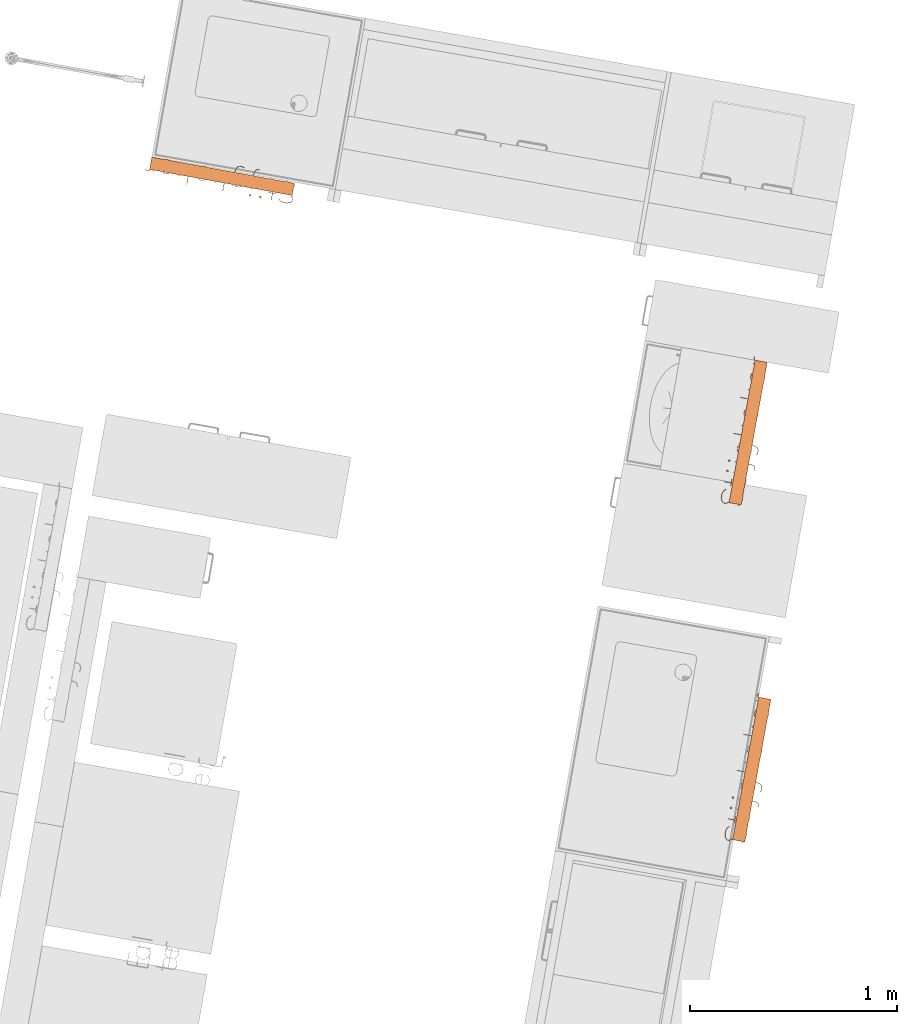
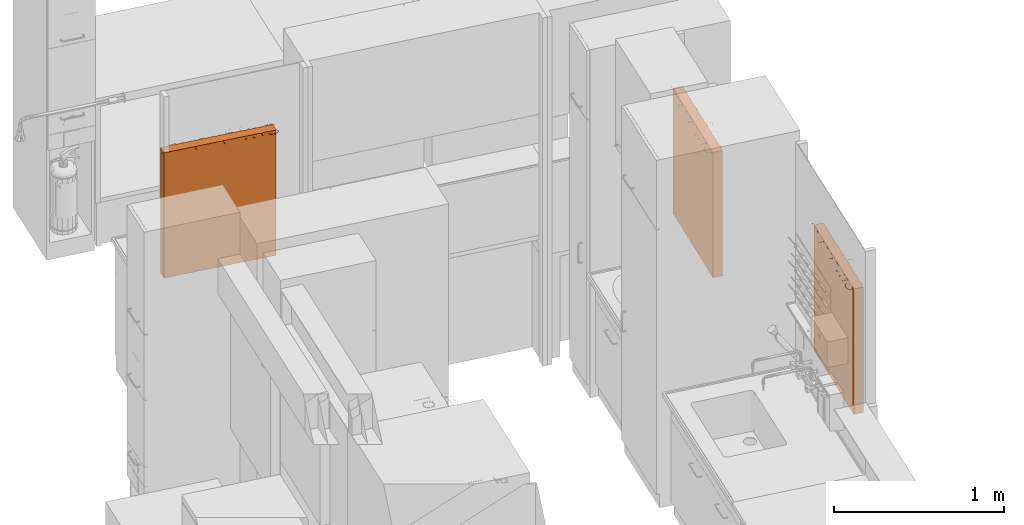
# One storey, part 33 of 43: 3 proxies.
"""IFC2X3 building model written with IfcOpenShell, lengths in metres."""

from ifc_helpers import new_model, entity, si_unit, converted_unit, derived_unit, direction, frame, origin, place, context, subcontext, project, spatial, face_set, surface_model, source, transform, mapped, material, type_object, type_shapes, element, save


model = new_model("IFC2X3")

# Units and contexts
model_context = context("Model", 3, precision=1e-05, world=origin(), true_north=direction((6.12303176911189e-17, 1.0)))
body_context = subcontext(model_context, "Body", "Model", "MODEL_VIEW")
ifc_project = project(units=[si_unit("LENGTHUNIT", "METRE"), si_unit("AREAUNIT", "SQUARE_METRE"), si_unit("VOLUMEUNIT", "CUBIC_METRE"), converted_unit("PLANEANGLEUNIT", "DEGREE", entity("IfcRatioMeasure", 0.0174532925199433), si_unit("PLANEANGLEUNIT", "RADIAN"), dimensions=[0, 0, 0, 0, 0, 0, 0]), si_unit("MASSUNIT", "GRAM", prefix="KILO"), derived_unit("MASSDENSITYUNIT", [(si_unit("MASSUNIT", "GRAM", prefix="KILO"), 1), (si_unit("LENGTHUNIT", "METRE"), -3)]), derived_unit("MOMENTOFINERTIAUNIT", [(si_unit("LENGTHUNIT", "METRE"), 4)]), si_unit("TIMEUNIT", "SECOND"), si_unit("FREQUENCYUNIT", "HERTZ"), si_unit("THERMODYNAMICTEMPERATUREUNIT", "DEGREE_CELSIUS"), derived_unit("THERMALTRANSMITTANCEUNIT", [(si_unit("MASSUNIT", "GRAM", prefix="KILO"), 1), (si_unit("THERMODYNAMICTEMPERATUREUNIT", "KELVIN"), -1), (si_unit("TIMEUNIT", "SECOND"), -3)]), derived_unit("VOLUMETRICFLOWRATEUNIT", [(si_unit("LENGTHUNIT", "METRE"), 3), (si_unit("TIMEUNIT", "SECOND"), -1)]), si_unit("ELECTRICCURRENTUNIT", "AMPERE"), si_unit("ELECTRICVOLTAGEUNIT", "VOLT"), si_unit("POWERUNIT", "WATT"), si_unit("FORCEUNIT", "NEWTON", prefix="KILO"), si_unit("ILLUMINANCEUNIT", "LUX"), si_unit("LUMINOUSFLUXUNIT", "LUMEN"), si_unit("LUMINOUSINTENSITYUNIT", "CANDELA"), derived_unit("USERDEFINED", [(si_unit("MASSUNIT", "GRAM", prefix="KILO"), -1), (si_unit("LENGTHUNIT", "METRE"), -2), (si_unit("TIMEUNIT", "SECOND"), 3), (si_unit("LUMINOUSFLUXUNIT", "LUMEN"), 1)]), derived_unit("LINEARVELOCITYUNIT", [(si_unit("LENGTHUNIT", "METRE"), 1), (si_unit("TIMEUNIT", "SECOND"), -1)]), si_unit("PRESSUREUNIT", "PASCAL"), derived_unit("USERDEFINED", [(si_unit("LENGTHUNIT", "METRE"), -2), (si_unit("MASSUNIT", "GRAM", prefix="KILO"), 1), (si_unit("TIMEUNIT", "SECOND"), -2)]), derived_unit("LINEARFORCEUNIT", [(si_unit("MASSUNIT", "GRAM", prefix="KILO"), 1), (si_unit("LENGTHUNIT", "METRE"), 1), (si_unit("TIMEUNIT", "SECOND"), -2), (si_unit("LENGTHUNIT", "METRE"), -1)]), derived_unit("PLANARFORCEUNIT", [(si_unit("MASSUNIT", "GRAM", prefix="KILO"), 1), (si_unit("LENGTHUNIT", "METRE"), 1), (si_unit("TIMEUNIT", "SECOND"), -2), (si_unit("LENGTHUNIT", "METRE"), -2)])], contexts=[model_context])

# Site, building, storey
site_placement = place(None, origin())
site = spatial("IfcSite", under=ifc_project, at=site_placement, Name="Default", CompositionType="ELEMENT")
building_placement = place(site_placement, origin())
building = spatial("IfcBuilding", under=site, at=building_placement, CompositionType="ELEMENT")
storey_placement = place(building_placement, frame((0.0, 0.0, 3.0)))
storey = spatial("IfcBuildingStorey", under=building, at=storey_placement, Name="01 OG", CompositionType="ELEMENT", Elevation=3.0)

# Proxies
ifc_material = material(Name="dh_Stellfläche")
building_element_proxy_type = type_object("IfcBuildingElementProxyType", Name="dh_Gerät_Stellfläche Bestand:Nutzergerät", PredefinedType="NOTDEFINED", material=ifc_material)
shared_shape = source(origin(), body_context, "Body", "SurfaceModel", [
    surface_model("IfcFaceBasedSurfaceModel", [(-0.355113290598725, -0.0453817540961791, 0.905000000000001), (-0.356700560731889, -0.0470458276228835, 0.905000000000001), (-0.346946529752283, -0.0567998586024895, 0.905000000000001), (-0.332277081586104, -0.0616384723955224, 0.905000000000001), (-0.312948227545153, -0.0616384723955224, 0.905000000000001), (-0.298278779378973, -0.0567998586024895, 0.905000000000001), (-0.288166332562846, -0.0466618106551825, 0.905000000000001), (-0.288166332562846, -0.0314547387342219, 0.905000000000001), (-0.29308174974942, -0.0214446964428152, 0.905000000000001), (-0.298073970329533, -0.0163500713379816, 0.905000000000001), (-0.307904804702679, -0.0115114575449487, 0.905000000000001), (-0.336450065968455, -0.00188543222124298, 0.905000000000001), (-0.34569207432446, 0.00295318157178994, 0.905000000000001), (-0.350197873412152, 0.00745898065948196, 0.905000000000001), (-0.354857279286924, 0.0166497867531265, 0.905000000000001), (-0.354857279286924, 0.0255845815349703, 0.905000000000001), (-0.34582007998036, 0.0347241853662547, 0.905000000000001), (-0.331944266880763, 0.0393579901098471, 0.905000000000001), (-0.313204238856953, 0.0393579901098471, 0.905000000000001), (-0.299328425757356, 0.0347241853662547, 0.905000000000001), (-0.290112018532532, 0.0252005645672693, 0.905000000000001), (-0.288447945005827, 0.0268646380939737, 0.905000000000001), (-0.298278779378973, 0.0366186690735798, 0.905000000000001), (-0.312948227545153, 0.041585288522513, 0.905000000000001), (-0.332277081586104, 0.041585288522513, 0.905000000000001), (-0.346946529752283, 0.0366186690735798, 0.905000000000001), (-0.35698217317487, 0.0264550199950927, 0.905000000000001), (-0.35698217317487, 0.016112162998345, 0.905000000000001), (-0.352117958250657, 0.00610212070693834, 0.905000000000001), (-0.347074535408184, 0.00100749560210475, 0.905000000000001), (-0.337243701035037, -0.00383111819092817, 0.905000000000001), (-0.308698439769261, -0.0134571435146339, 0.905000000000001), (-0.299456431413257, -0.0182957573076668, 0.905000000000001), (-0.294950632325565, -0.0228015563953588, 0.905000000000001), (-0.290368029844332, -0.0320691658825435, 0.905000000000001), (-0.290368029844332, -0.0457657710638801, 0.905000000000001), (-0.299328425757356, -0.0549053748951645, 0.905000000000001), (-0.313204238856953, -0.0595647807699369, 0.905000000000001), (-0.331944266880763, -0.0595647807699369, 0.905000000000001), (-0.34582007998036, -0.0549053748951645, 0.905000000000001), (-0.230691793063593, -0.0616384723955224, 0.905000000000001), (-0.230691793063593, -0.0595647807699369, 0.905000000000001), (-0.239908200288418, -0.0595647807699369, 0.905000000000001), (-0.248740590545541, -0.055084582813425, 0.905000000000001), (-0.253399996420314, -0.0413879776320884, 0.905000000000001), (-0.253399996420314, 0.00533408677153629, 0.905000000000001), (-0.235402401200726, 0.00533408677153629, 0.905000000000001), (-0.235402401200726, 0.00745898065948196, 0.905000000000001), (-0.253399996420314, 0.00745898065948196, 0.905000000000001), (-0.253399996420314, 0.0399468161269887, 0.905000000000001), (-0.255576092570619, 0.0399468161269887, 0.905000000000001), (-0.255576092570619, 0.00745898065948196, 0.905000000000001), (-0.268735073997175, 0.00745898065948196, 0.905000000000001), (-0.268735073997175, 0.00533408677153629, 0.905000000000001), (-0.255576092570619, 0.00533408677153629, 0.905000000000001), (-0.255576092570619, -0.0416439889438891, 0.905000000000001), (-0.250660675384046, -0.0566974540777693, 0.905000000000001), (-0.240445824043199, -0.0616384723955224, 0.905000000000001), (-0.201327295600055, -0.0599999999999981, 0.905000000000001), (-0.199202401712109, -0.0599999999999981, 0.905000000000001), (-0.199202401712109, 0.00666534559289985, 0.905000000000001), (-0.201327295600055, 0.00666534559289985, 0.905000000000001), (-0.17329405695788, -0.0922318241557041, 0.905000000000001), (-0.17329405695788, -0.0944079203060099, 0.905000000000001), (-0.163744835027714, -0.0944079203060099, 0.905000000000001), (-0.153581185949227, -0.0893644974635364, 0.905000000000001), (-0.148665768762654, -0.0744390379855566, 0.905000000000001), (-0.148665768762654, 0.00651173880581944, 0.905000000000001), (-0.15086746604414, 0.00651173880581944, 0.905000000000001), (-0.15086746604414, -0.0741574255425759, 0.905000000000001), (-0.155501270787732, -0.087700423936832, 0.905000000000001), (-0.164333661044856, -0.0922318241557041, 0.905000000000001), (-0.100049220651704, -0.0875980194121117, 0.905000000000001), (-0.101175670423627, -0.0895181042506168, 0.905000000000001), (-0.0913448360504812, -0.0944079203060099, 0.905000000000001), (-0.0765473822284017, -0.0944079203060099, 0.905000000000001), (-0.0666397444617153, -0.0895181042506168, 0.905000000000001), (-0.0615963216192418, -0.0843466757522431, 0.905000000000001), (-0.0566809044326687, -0.069728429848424, 0.905000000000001), (-0.0566809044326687, 0.00615332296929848, 0.905000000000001), (-0.0588826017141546, 0.00615332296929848, 0.905000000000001), (-0.0588826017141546, -0.00552079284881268, 0.905000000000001), (-0.0666397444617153, 0.0023387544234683, 0.905000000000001), (-0.0765473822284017, 0.00717736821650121, 0.905000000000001), (-0.0913448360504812, 0.00717736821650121, 0.905000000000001), (-0.101303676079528, 0.0023387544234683, 0.905000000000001), (-0.111057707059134, -0.00756888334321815, 0.905000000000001), (-0.115973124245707, -0.0221871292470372, 0.905000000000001), (-0.115973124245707, -0.0319923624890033, 0.905000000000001), (-0.111057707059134, -0.0465850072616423, 0.905000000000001), (-0.101303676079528, -0.0564926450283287, 0.905000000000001), (-0.0913448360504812, -0.0612544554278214, 0.905000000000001), (-0.0765473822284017, -0.0612544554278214, 0.905000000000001), (-0.0666397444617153, -0.0564926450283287, 0.905000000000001), (-0.0588826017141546, -0.0485818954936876, 0.905000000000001), (-0.0588826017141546, -0.0694724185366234, 0.905000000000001), (-0.0634652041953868, -0.0832970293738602, 0.905000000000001), (-0.0679710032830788, -0.0875980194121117, 0.905000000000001), (-0.077059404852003, -0.0922318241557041, 0.905000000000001), (-0.0908072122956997, -0.0922318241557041, 0.905000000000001), (-0.0588826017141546, -0.0452537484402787, 0.905000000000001), (-0.0679710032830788, -0.0542909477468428, 0.905000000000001), (-0.077059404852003, -0.0588735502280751, 0.905000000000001), (-0.0908072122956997, -0.0588735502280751, 0.905000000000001), (-0.0999212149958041, -0.0542909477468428, 0.905000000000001), (-0.109214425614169, -0.0451257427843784, 0.905000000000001), (-0.113797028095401, -0.0312499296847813, 0.905000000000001), (-0.113797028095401, -0.0220079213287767, 0.905000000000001), (-0.109214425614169, -0.00813210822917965, 0.905000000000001), (-0.0999212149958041, 0.000956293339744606, 0.905000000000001), (-0.0908072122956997, 0.00561569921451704, 0.905000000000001), (-0.077059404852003, 0.00561569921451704, 0.905000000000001), (-0.0679710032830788, 0.000956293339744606, 0.905000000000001), (-0.0588826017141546, -0.00800410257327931, 0.905000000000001), (-0.017818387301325, -0.0599999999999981, 0.905000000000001), (-0.0156934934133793, -0.0599999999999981, 0.905000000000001), (-0.0156934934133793, -0.0413367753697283, 0.905000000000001), (0.00230410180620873, -0.0235439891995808, 0.905000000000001), (0.0347919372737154, -0.0599999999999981, 0.905000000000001), (0.0364560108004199, -0.0587455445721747, 0.905000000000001), (0.00376336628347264, -0.0214958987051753, 0.905000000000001), (0.0316685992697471, 0.00625572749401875, 0.905000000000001), (0.0300813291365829, 0.00784299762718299, 0.905000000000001), (-0.0156934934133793, -0.0379574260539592, 0.905000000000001), (-0.0156934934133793, 0.0399468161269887, 0.905000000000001), (-0.017818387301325, 0.0399468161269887, 0.905000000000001), (0.120146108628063, -0.0469178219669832, 0.905000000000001), (0.125061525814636, -0.0322227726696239, 0.905000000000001), (0.125061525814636, -0.0223663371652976, 0.905000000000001), (0.120146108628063, -0.00767128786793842, 0.905000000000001), (0.110315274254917, 0.00231315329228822, 0.905000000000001), (0.100407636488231, 0.00717736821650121, 0.905000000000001), (0.0856101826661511, 0.00717736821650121, 0.905000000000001), (0.0756513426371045, 0.00231315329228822, 0.905000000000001), (0.0658973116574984, -0.00767128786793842, 0.905000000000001), (0.0609818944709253, -0.0223663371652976, 0.905000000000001), (0.0609818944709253, -0.0322227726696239, 0.905000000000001), (0.0658973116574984, -0.0469178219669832, 0.905000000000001), (0.0756513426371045, -0.0568510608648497, 0.905000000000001), (0.0856101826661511, -0.0616384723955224, 0.905000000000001), (0.100407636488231, -0.0616384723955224, 0.905000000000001), (0.110315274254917, -0.0568510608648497, 0.905000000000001), (0.118200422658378, -0.0451257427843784, 0.905000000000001), (0.108984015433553, -0.0542909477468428, 0.905000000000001), (0.0998956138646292, -0.0588735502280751, 0.905000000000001), (0.0861478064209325, -0.0588735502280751, 0.905000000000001), (0.0770338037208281, -0.0542909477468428, 0.905000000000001), (0.0677405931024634, -0.0451257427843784, 0.905000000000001), (0.0631579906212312, -0.0312499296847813, 0.905000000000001), (0.0631579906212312, -0.0220079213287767, 0.905000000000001), (0.0677405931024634, -0.00813210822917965, 0.905000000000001), (0.0770338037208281, 0.000956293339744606, 0.905000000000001), (0.0861478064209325, 0.00561569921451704, 0.905000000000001), (0.0998956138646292, 0.00561569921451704, 0.905000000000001), (0.108984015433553, 0.000956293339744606, 0.905000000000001), (0.118200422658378, -0.00813210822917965, 0.905000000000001), (0.12285982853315, -0.0220079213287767, 0.905000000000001), (0.12285982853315, -0.0312499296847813, 0.905000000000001), (0.159136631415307, -0.0599999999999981, 0.905000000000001), (0.161261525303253, -0.0599999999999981, 0.905000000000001), (0.161261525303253, -0.0413367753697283, 0.905000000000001), (0.179259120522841, -0.0235439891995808, 0.905000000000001), (0.211746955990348, -0.0599999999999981, 0.905000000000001), (0.213411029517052, -0.0587455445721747, 0.905000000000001), (0.180718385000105, -0.0214958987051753, 0.905000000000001), (0.208623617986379, 0.00625572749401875, 0.905000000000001), (0.207036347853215, 0.00784299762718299, 0.905000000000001), (0.161261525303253, -0.0379574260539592, 0.905000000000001), (0.161261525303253, 0.0399468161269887, 0.905000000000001), (0.159136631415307, 0.0399468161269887, 0.905000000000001), (0.296973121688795, -0.0471994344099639, 0.905000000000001), (0.295309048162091, -0.0455353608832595, 0.905000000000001), (0.285939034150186, -0.0549821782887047, 0.905000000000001), (0.276850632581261, -0.0595647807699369, 0.905000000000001), (0.263102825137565, -0.0595647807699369, 0.905000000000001), (0.253988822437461, -0.0549821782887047, 0.905000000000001), (0.244695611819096, -0.0457913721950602, 0.905000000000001), (0.240113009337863, -0.0318899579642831, 0.905000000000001), (0.240113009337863, -0.0236463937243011, 0.905000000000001), (0.297229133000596, -0.0236463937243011, 0.905000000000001), (0.297229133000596, -0.0127147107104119, 0.905000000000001), (0.292313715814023, -0.00273026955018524, 0.905000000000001), (0.287270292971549, 0.00231315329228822, 0.905000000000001), (0.277362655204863, 0.00717736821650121, 0.905000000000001), (0.262565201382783, 0.00717736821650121, 0.905000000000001), (0.252606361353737, 0.00231315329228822, 0.905000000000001), (0.242852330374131, -0.00767128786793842, 0.905000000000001), (0.237936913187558, -0.0223663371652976, 0.905000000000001), (0.237936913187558, -0.0322227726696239, 0.905000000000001), (0.242852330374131, -0.0469178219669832, 0.905000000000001), (0.252606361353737, -0.0568510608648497, 0.905000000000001), (0.262565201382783, -0.0616384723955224, 0.905000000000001), (0.277362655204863, -0.0616384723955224, 0.905000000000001), (0.287270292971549, -0.0568510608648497, 0.905000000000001), (0.240522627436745, -0.0214446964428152, 0.905000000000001), (0.244695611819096, -0.00874653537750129, 0.905000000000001), (0.253988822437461, 0.000341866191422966, 0.905000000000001), (0.263102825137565, 0.0050012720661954, 0.905000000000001), (0.276850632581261, 0.0050012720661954, 0.905000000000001), (0.285939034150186, 0.000341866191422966, 0.905000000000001), (0.290444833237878, -0.00416393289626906, 0.905000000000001), (0.29502743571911, -0.0132779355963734, 0.905000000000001), (0.29502743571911, -0.0214446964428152, 0.905000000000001), (0.331176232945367, -0.0599999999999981, 0.905000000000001), (0.333301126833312, -0.0599999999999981, 0.905000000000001), (0.333301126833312, -0.0223407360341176, 0.905000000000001), (0.337960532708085, -0.00856732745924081, 0.905000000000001), (0.347202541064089, 0.000469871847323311, 0.905000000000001), (0.356342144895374, 0.00507807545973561, 0.905000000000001), (0.370371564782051, 0.00507807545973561, 0.905000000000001), (0.370371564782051, 0.00717736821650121, 0.905000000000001), (0.355753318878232, 0.00717736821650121, 0.905000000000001), (0.345871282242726, 0.00236435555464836, 0.905000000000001), (0.336040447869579, -0.00751768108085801, 0.905000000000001), (0.333301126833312, -0.0156076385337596, 0.905000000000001), (0.333301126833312, 0.00630692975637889, 0.905000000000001), (0.331176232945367, 0.00630692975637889, 0.905000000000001), (-0.149792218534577, 0.0291175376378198, 0.905000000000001), (-0.14349434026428, 0.0353386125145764, 0.905000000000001), (-0.149792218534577, 0.041585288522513, 0.905000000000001), (-0.156038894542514, 0.0353386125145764, 0.905000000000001), (-0.149792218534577, 0.0319592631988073, 0.905000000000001), (-0.153043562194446, 0.035210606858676, 0.905000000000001), (-0.149792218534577, 0.0384875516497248, 0.905000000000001), (-0.146464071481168, 0.035210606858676, 0.905000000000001), (-0.200252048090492, 0.0291175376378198, 0.905000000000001), (-0.194005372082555, 0.0353386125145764, 0.905000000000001), (-0.200252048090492, 0.041585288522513, 0.905000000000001), (-0.206498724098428, 0.0353386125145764, 0.905000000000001), (-0.200252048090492, 0.0319592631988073, 0.905000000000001), (-0.20350339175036, 0.035210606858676, 0.905000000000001), (-0.200252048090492, 0.0384875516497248, 0.905000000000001), (-0.197000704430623, 0.035210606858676, 0.905000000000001), (0.35, 0.0, 0.9), (0.35, -0.06, 0.9), (-0.35, -0.06, 0.9), (-0.35, 0.0, 0.9), (0.35, 0.0, 0.0), (0.35, -0.06, 0.0), (-0.35, -0.06, 0.0), (-0.35, 0.0, 0.0)], [face_set([[[0, 1, 2, 3, 4, 5, 6, 7, 8, 9, 10, 11, 12, 13, 14, 15, 16, 17, 18, 19, 20, 21, 22, 23, 24, 25, 26, 27, 28, 29, 30, 31, 32, 33, 34, 35, 36, 37, 38, 39]]]), face_set([[[40, 41, 42, 43, 44, 45, 46, 47, 48, 49, 50, 51, 52, 53, 54, 55, 56, 57]]]), face_set([[[58, 59, 60, 61]]]), face_set([[[62, 63, 64, 65, 66, 67, 68, 69, 70, 71]]]), face_set([[[72, 73, 74, 75, 76, 77, 78, 79, 80, 81, 82, 83, 84, 85, 86, 87, 88, 89, 90, 91, 92, 93, 94, 95, 96, 97, 98, 99], [100, 101, 102, 103, 104, 105, 106, 107, 108, 109, 110, 111, 112, 113]]]), face_set([[[114, 115, 116, 117, 118, 119, 120, 121, 122, 123, 124, 125]]]), face_set([[[126, 127, 128, 129, 130, 131, 132, 133, 134, 135, 136, 137, 138, 139, 140, 141], [142, 143, 144, 145, 146, 147, 148, 149, 150, 151, 152, 153, 154, 155, 156, 157]]]), face_set([[[158, 159, 160, 161, 162, 163, 164, 165, 166, 167, 168, 169]]]), face_set([[[170, 171, 172, 173, 174, 175, 176, 177, 178, 179, 180, 181, 182, 183, 184, 185, 186, 187, 188, 189, 190, 191, 192, 193], [194, 195, 196, 197, 198, 199, 200, 201, 202]]]), face_set([[[203, 204, 205, 206, 207, 208, 209, 210, 211, 212, 213, 214, 215, 216]]]), face_set([[[217, 218, 219, 220], [221, 222, 223, 224]]]), face_set([[[225, 226, 227, 228], [229, 230, 231, 232]]]), face_set([[[233, 234, 235, 236]], [[237, 238, 239, 240]], [[236, 233, 237, 240]], [[235, 236, 240, 239]], [[234, 238, 239, 235]], [[233, 234, 238, 237]]])]),
])
type_shapes(building_element_proxy_type, [shared_shape])
for number, where, z_axis, x_axis, name in (
    (1, (29.6238654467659, 10.5128566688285, 1.2), (0.0, 0.0, 1.0), (0.180288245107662, 0.983613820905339, 0.0), "dh_Gerät_Stellfläche Bestand:Nutzergerät"),
    (2, (29.6062473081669, 12.1405703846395, 1.2), (0.0, 0.0, 1.0), (0.180288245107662, 0.983613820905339, 0.0), "dh_Gerät_Stellfläche Bestand:Nutzergerät"),
    (3, (27.0891979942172, 13.3432226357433, 1.2), (0.0, 0.0, 1.0), (-0.983613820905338, 0.180288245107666, 0.0), "dh_Gerät_Stellfläche Bestand:Nutzergerät"),
):
    element("IfcBuildingElementProxy", number, at=place(storey_placement, frame(where, z_axis=z_axis, x_axis=x_axis)), inside=storey, type_object=building_element_proxy_type, material=ifc_material, Name=name, ObjectType="dh_Gerät_Stellfläche Bestand:Nutzergerät", context=body_context, shape_type="MappedRepresentation", body=[
        mapped(shared_shape, transform((0.0, 0.0, 0.0), scale=1.0)),
    ])

save(model, "model.ifc")
